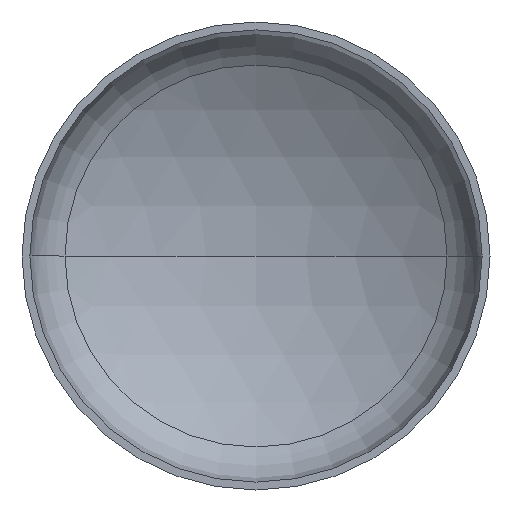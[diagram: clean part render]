
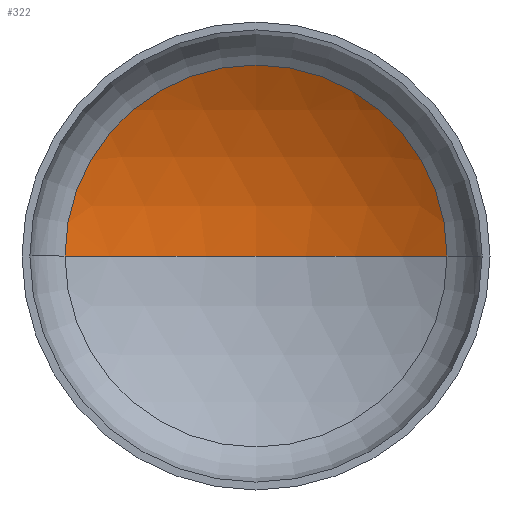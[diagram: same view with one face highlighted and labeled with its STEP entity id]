
A CAD part, front view. The second image highlights one B-rep face of the part: STEP entity #322.
In plain terms, the highlighted spherical face has radius 1280 mm.
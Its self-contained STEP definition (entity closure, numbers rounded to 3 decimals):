
#12 = AXIS2_PLACEMENT_3D ( 'NONE', #67, #125, #128 ) ;
#14 = EDGE_LOOP ( 'NONE', ( #114, #53, #106 ) ) ;
#16 = AXIS2_PLACEMENT_3D ( 'NONE', #388, #320, #243 ) ;
#18 = AXIS2_PLACEMENT_3D ( 'NONE', #269, #396, #164 ) ;
#27 = AXIS2_PLACEMENT_3D ( 'NONE', #50, #266, #397 ) ;
#36 = CIRCLE ( 'NONE', #16, 652.986 ) ;
#50 = CARTESIAN_POINT ( 'NONE',  ( 0., -805.192, 0. ) ) ;
#53 = ORIENTED_EDGE ( 'NONE', *, *, #356, .T. ) ;
#65 = CIRCLE ( 'NONE', #18, 1280. ) ;
#67 = CARTESIAN_POINT ( 'NONE',  ( 0., -805.192, 0. ) ) ;
#72 = VERTEX_POINT ( 'NONE', #278 ) ;
#74 = VERTEX_POINT ( 'NONE', #283 ) ;
#103 = SPHERICAL_SURFACE ( 'NONE', #27, 1280. ) ;
#106 = ORIENTED_EDGE ( 'NONE', *, *, #351, .T. ) ;
#114 = ORIENTED_EDGE ( 'NONE', *, *, #343, .F. ) ;
#122 = VERTEX_POINT ( 'NONE', #192 ) ;
#125 = DIRECTION ( 'NONE',  ( 0., 0., -1. ) ) ;
#128 = DIRECTION ( 'NONE',  ( -1., 0., 0. ) ) ;
#164 = DIRECTION ( 'NONE',  ( 1., 0., 0. ) ) ;
#192 = CARTESIAN_POINT ( 'NONE',  ( 652.986, 295.722, 0. ) ) ;
#241 = CIRCLE ( 'NONE', #12, 1280. ) ;
#243 = DIRECTION ( 'NONE',  ( 1., 0., 0. ) ) ;
#266 = DIRECTION ( 'NONE',  ( 0., 0., -1. ) ) ;
#269 = CARTESIAN_POINT ( 'NONE',  ( 0., -805.192, 0. ) ) ;
#278 = CARTESIAN_POINT ( 'NONE',  ( -652.986, 295.722, 0. ) ) ;
#283 = CARTESIAN_POINT ( 'NONE',  ( 0., 474.808, 0. ) ) ;
#320 = DIRECTION ( 'NONE',  ( 0., -1., 0. ) ) ;
#321 = FACE_OUTER_BOUND ( 'NONE', #14, .T. ) ;
#322 = ADVANCED_FACE ( 'NONE', ( #321 ), #103, .F. ) ;
#343 = EDGE_CURVE ( 'NONE', #74, #72, #65, .T. ) ;
#351 = EDGE_CURVE ( 'NONE', #122, #72, #36, .T. ) ;
#356 = EDGE_CURVE ( 'NONE', #74, #122, #241, .T. ) ;
#388 = CARTESIAN_POINT ( 'NONE',  ( 0., 295.722, 0. ) ) ;
#396 = DIRECTION ( 'NONE',  ( 0., 0., 1. ) ) ;
#397 = DIRECTION ( 'NONE',  ( -1., 0., 0. ) ) ;
